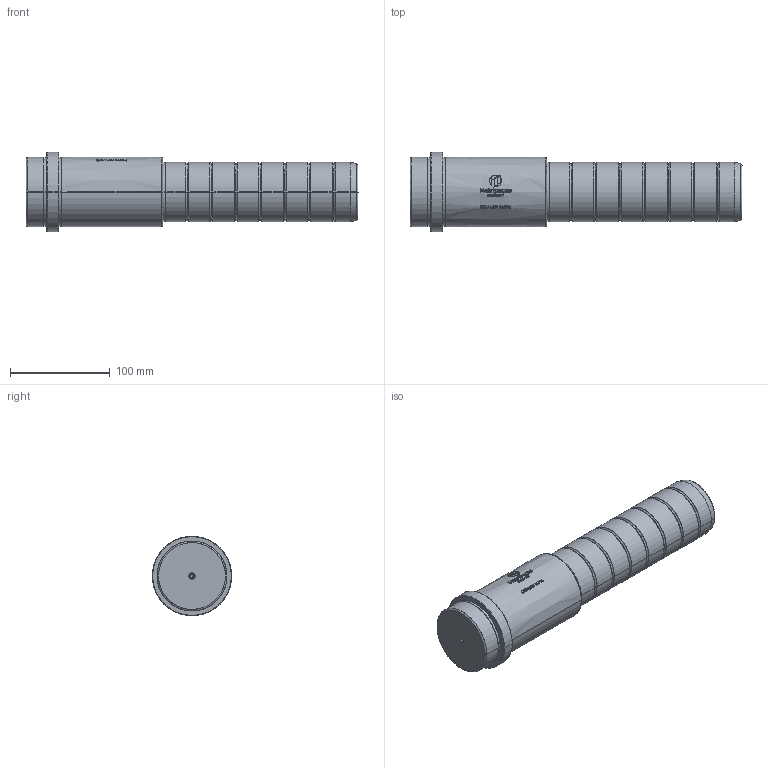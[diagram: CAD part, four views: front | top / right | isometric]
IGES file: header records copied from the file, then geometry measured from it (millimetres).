
Start section: SolidWorks IGES file using analytic representation for surfaces
Global section: file name: E:\1.TRIVECTOR\Clientes\MATRIPEÇAS\PEÇAS_CATALOGO_SITE\6.CGM - COLUNA PRINCIPAL TIPO GUIA (CATÁLOGO)\CGM60116196.IGS; native system: SolidWorks 2024; preprocessor: SolidWorks 2024; author: Gabriel Techio; date: 260914.163349; units: millimetre
Bounding box: 333 x 80 x 80 mm (x, y, z)
Surface area: 79475.5 mm2 (no closed solid volume)
Topology: 0 solids, 0 shells, 512 faces, 6205 edges, 6201 vertices
Faces by surface type: bspline 418, revolution 94
